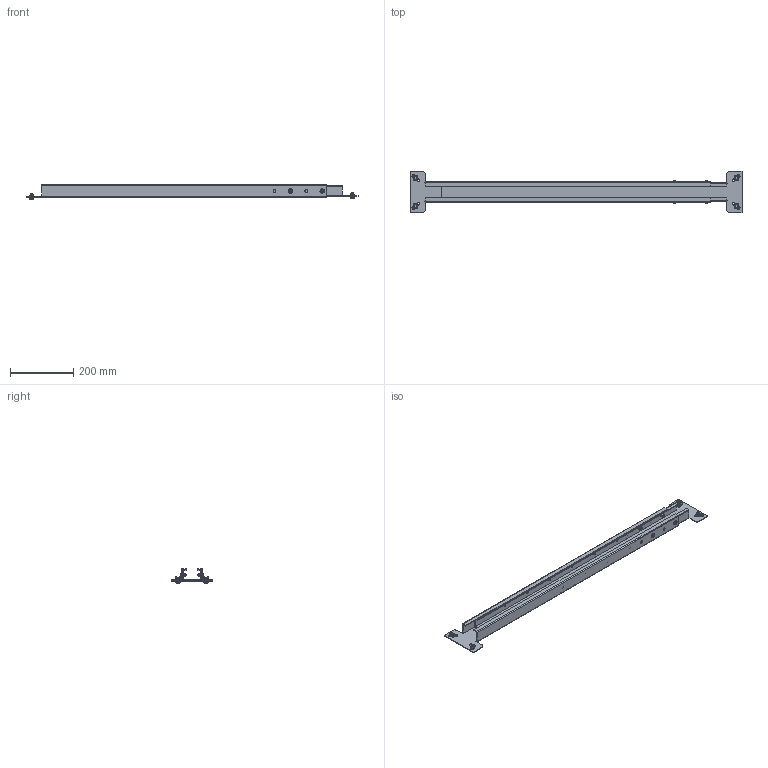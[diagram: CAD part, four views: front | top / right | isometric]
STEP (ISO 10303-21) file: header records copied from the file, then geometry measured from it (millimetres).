
FILE_DESCRIPTION(/* description */ ('Unknown'),/* implementation_level */ '2;1');
FILE_NAME(/* name */ '127.00635_03-950mm',/* time_stamp */ '2021-11-02T12:48:10+01:00',/* author */ ('Unknown'),/* organization */ ('Unknown'),/* preprocessor_version */ 'ST-DEVELOPER v18.1',/* originating_system */ 'Solid Edge',/* authorisation */ 'Unknown');
FILE_SCHEMA (('AUTOMOTIVE_DESIGN {1 0 10303 214 3 1 1}'));
Length unit declared in the file: millimetre
Products named in the file (9): 127.00635; 060339~2; 060340~3; Sechskantmutter M6 DIN 934; Scheibe Ø6,4 DIN 125; Halbrundkopfschraube mit Innensechskant M8x12 ISO 7380-1; Scheibe Ø8,4 DIN 125 ; Nutenstein M8_montiert; Halbrundkopfschraube mit Innensechskant und Bund M6x16 ISO 7380-2
Assembly tree (26 placements, depth 2):
  127.00635
    060339~2
    060340~3
    Sechskantmutter M6 DIN 934  x4
    Scheibe Ø6,4 DIN 125  x4
    Halbrundkopfschraube mit Innensechskant M8x12 ISO 7380-1  x4
    Scheibe Ø8,4 DIN 125   x4
    Nutenstein M8_montiert  x4
    Halbrundkopfschraube mit Innensechskant und Bund M6x16 ISO 7380-2  x4
Bounding box: 1046 x 130 x 46.15 mm (x, y, z)
Volume: 709606.9 mm3; surface area: 584786.9 mm2
Topology: 26 solids, 26 shells, 796 faces, 2059 edges, 1327 vertices
Faces by surface type: plane 384, cylinder 268, torus 72, bspline 48, cone 20, sphere 4
Full cylindrical faces by diameter (mm): 6 x8, 6.4 x4, 6.647 x4, 7 x16, 8 x4, 8.5 x12, 12 x4, 13.6 x4, 14 x4, 16.8 x4
Entity records: 10787 total; most frequent: CARTESIAN_POINT 2359, DIRECTION 1406, ORIENTED_EDGE 1386, EDGE_CURVE 693, AXIS2_PLACEMENT_3D 517, VERTEX_POINT 473, EDGE_LOOP 394, FACE_BOUND 394
